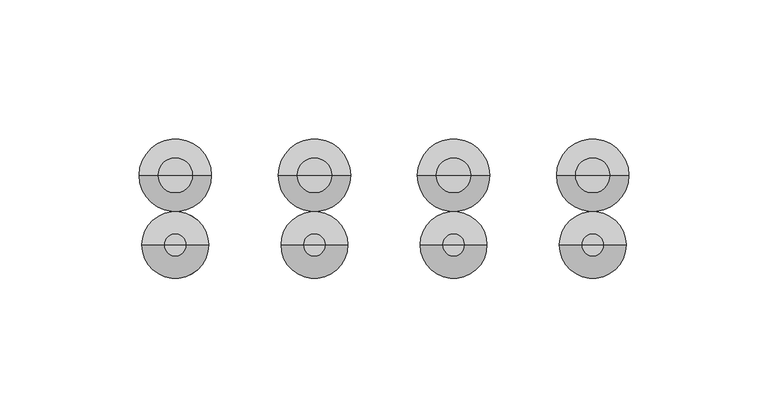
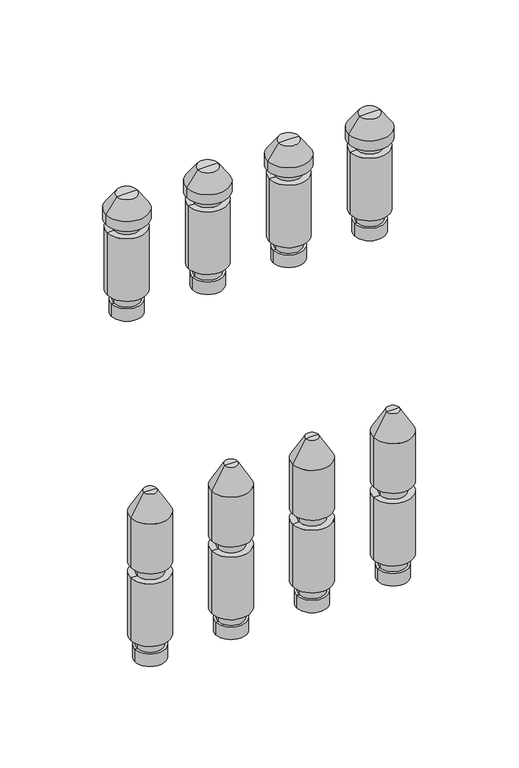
"""IFC4 building model written with IfcOpenShell, lengths in millimetres: valve geometry, PL CZ_Manifold_FT-VA : 12 circuits."""

from ifc_helpers import new_model, si_unit, frame, origin, place, context, project, spatial, polyline, circle_curve, source, transform, mapped, element, save
from ifc_brep_helpers import plane_surface, cylinder_surface, revolved_surface, advanced_brep


def valve_b043caab(model_context):
    return source(origin(), model_context, "Body", "AdvancedBrep", [
        advanced_brep(
        [(528.5, 0.0, -35.11267), (547.5, 0.0, -35.11267), (538.0, 0.0, -35.11267), (528.5, 0.0, -27.0369646), (547.5, 0.0, -27.0369646), (530.0, 0.0, -27.0369646), (546.0, 0.0, -27.0369646), (530.0, 0.0, -20.330253), (546.0, 0.0, -20.330253), (526.0, 0.0, -20.330253), (550.0, 0.0, -20.330253), (526.0, 0.0, 20.330253), (550.0, 0.0, 20.330253), (530.0, 0.0, 20.330253), (546.0, 0.0, 20.330253), (530.0, 0.0, 27.0474786), (546.0, 0.0, 27.0474786), (526.0, 0.0, 27.0474786), (550.0, 0.0, 27.0474786), (526.0, 0.0, 59.4084325), (550.0, 0.0, 59.4084325), (534.0, 0.0, 73.264839), (542.0, 0.0, 73.264839), (538.0, 0.0, 73.264839)],
        [
            (0, 1, circle_curve(frame((538.0, 0.0, -35.11267), z_axis=(0.0, 0.0, -1.0), x_axis=(1.0, 0.0, 0.0)), 9.5)),
            (1, 2),
            (2, 0),
            (1, 0, circle_curve(frame((538.0, 0.0, -35.11267), z_axis=(0.0, 0.0, -1.0), x_axis=(1.0, 0.0, 0.0)), 9.5)),
            (3, 4, circle_curve(frame((538.0, 0.0, -27.0369646), z_axis=(0.0, 0.0, -1.0), x_axis=(1.0, 0.0, 0.0)), 9.5)),
            (4, 1),
            (0, 3),
            (4, 3, circle_curve(frame((538.0, 0.0, -27.0369646), z_axis=(0.0, 0.0, -1.0), x_axis=(1.0, 0.0, 0.0)), 9.5)),
            (5, 6, circle_curve(frame((538.0, 0.0, -27.0369646), z_axis=(0.0, 0.0, -1.0), x_axis=(1.0, 0.0, 0.0)), 8.0)),
            (6, 4),
            (3, 5),
            (6, 5, circle_curve(frame((538.0, 0.0, -27.0369646), z_axis=(0.0, 0.0, -1.0), x_axis=(1.0, 0.0, 0.0)), 8.0)),
            (7, 8, circle_curve(frame((538.0, 0.0, -20.330253), z_axis=(0.0, 0.0, -1.0), x_axis=(1.0, 0.0, 0.0)), 8.0)),
            (8, 6),
            (5, 7),
            (8, 7, circle_curve(frame((538.0, 0.0, -20.330253), z_axis=(0.0, 0.0, -1.0), x_axis=(1.0, 0.0, 0.0)), 8.0)),
            (9, 10, circle_curve(frame((538.0, 0.0, -20.330253), z_axis=(0.0, 0.0, -1.0), x_axis=(1.0, 0.0, 0.0)), 12.0)),
            (10, 8),
            (7, 9),
            (10, 9, circle_curve(frame((538.0, 0.0, -20.330253), z_axis=(0.0, 0.0, -1.0), x_axis=(1.0, 0.0, 0.0)), 12.0)),
            (11, 12, circle_curve(frame((538.0, 0.0, 20.330253), z_axis=(0.0, 0.0, -1.0), x_axis=(1.0, 0.0, 0.0)), 12.0)),
            (12, 10),
            (9, 11),
            (12, 11, circle_curve(frame((538.0, 0.0, 20.330253), z_axis=(0.0, 0.0, -1.0), x_axis=(1.0, 0.0, 0.0)), 12.0)),
            (13, 14, circle_curve(frame((538.0, 0.0, 20.330253), z_axis=(0.0, 0.0, -1.0), x_axis=(1.0, 0.0, 0.0)), 8.0)),
            (14, 12),
            (11, 13),
            (14, 13, circle_curve(frame((538.0, 0.0, 20.330253), z_axis=(0.0, 0.0, -1.0), x_axis=(1.0, 0.0, 0.0)), 8.0)),
            (15, 16, circle_curve(frame((538.0, 0.0, 27.0474786), z_axis=(0.0, 0.0, -1.0), x_axis=(1.0, 0.0, 0.0)), 8.0)),
            (16, 14),
            (13, 15),
            (16, 15, circle_curve(frame((538.0, 0.0, 27.0474786), z_axis=(0.0, 0.0, -1.0), x_axis=(1.0, 0.0, 0.0)), 8.0)),
            (17, 18, circle_curve(frame((538.0, 0.0, 27.0474786), z_axis=(0.0, 0.0, -1.0), x_axis=(1.0, 0.0, 0.0)), 12.0)),
            (18, 16),
            (15, 17),
            (18, 17, circle_curve(frame((538.0, 0.0, 27.0474786), z_axis=(0.0, 0.0, -1.0), x_axis=(1.0, 0.0, 0.0)), 12.0)),
            (19, 20, circle_curve(frame((538.0, 0.0, 59.4084325), z_axis=(0.0, 0.0, -1.0), x_axis=(1.0, 0.0, 0.0)), 12.0)),
            (20, 18),
            (17, 19),
            (20, 19, circle_curve(frame((538.0, 0.0, 59.4084325), z_axis=(0.0, 0.0, -1.0), x_axis=(1.0, 0.0, 0.0)), 12.0)),
            (21, 22, circle_curve(frame((538.0, 0.0, 73.264839), z_axis=(0.0, 0.0, -1.0), x_axis=(1.0, 0.0, 0.0)), 4.0)),
            (22, 20),
            (19, 21),
            (22, 21, circle_curve(frame((538.0, 0.0, 73.264839), z_axis=(0.0, 0.0, -1.0), x_axis=(1.0, 0.0, 0.0)), 4.0)),
            (23, 22),
            (21, 23),
        ],
        [
            plane_surface(frame((538.0, 0.0, -35.11267), z_axis=(0.0, 0.0, -1.0), x_axis=(1.0, 0.0, 0.0))),
            cylinder_surface(frame((538.0, 0.0, 58.264839), z_axis=(0.0, 0.0, 1.0), x_axis=(1.0, 0.0, 0.0)), 9.5),
            plane_surface(frame((538.0, 0.0, -27.0369646), z_axis=(0.0, 0.0, 1.0), x_axis=(1.0, 0.0, 0.0))),
            cylinder_surface(frame((538.0, 0.0, 58.264839), z_axis=(0.0, 0.0, 1.0), x_axis=(1.0, 0.0, 0.0)), 8.0),
            plane_surface(frame((538.0, 0.0, -20.330253), z_axis=(0.0, 0.0, -1.0), x_axis=(1.0, 0.0, 0.0))),
            cylinder_surface(frame((538.0, 0.0, 58.264839), z_axis=(0.0, 0.0, 1.0), x_axis=(1.0, 0.0, 0.0)), 12.0),
            plane_surface(frame((538.0, 0.0, 20.330253), z_axis=(0.0, 0.0, 1.0), x_axis=(1.0, 0.0, 0.0))),
            plane_surface(frame((538.0, 0.0, 27.0474786), z_axis=(0.0, 0.0, -1.0), x_axis=(1.0, 0.0, 0.0))),
            revolved_surface(polyline([(550.0, 0.0, 59.4084325), (542.0, 0.0, 73.264839)]), (538.0, 0.0, 58.264839), (0.0, 0.0, 1.0)),
            plane_surface(frame((538.0, 0.0, 73.264839), z_axis=(0.0, 0.0, 1.0), x_axis=(1.0, 0.0, 0.0))),
        ],
        [
            (0, [[1, 2, 3]]),
            (0, [[4, -3, -2]]),
            (1, [[5, 6, -1, 7]]),
            (1, [[8, -7, -4, -6]]),
            (2, [[9, 10, -5, 11]]),
            (2, [[12, -11, -8, -10]]),
            (3, [[13, 14, -9, 15]]),
            (3, [[16, -15, -12, -14]]),
            (4, [[17, 18, -13, 19]]),
            (4, [[20, -19, -16, -18]]),
            (5, [[21, 22, -17, 23]]),
            (5, [[24, -23, -20, -22]]),
            (6, [[25, 26, -21, 27]]),
            (6, [[28, -27, -24, -26]]),
            (3, [[29, 30, -25, 31]]),
            (3, [[32, -31, -28, -30]]),
            (7, [[33, 34, -29, 35]]),
            (7, [[36, -35, -32, -34]]),
            (5, [[37, 38, -33, 39]]),
            (5, [[40, -39, -36, -38]]),
            (8, [[41, 42, -37, 43]]),
            (8, [[44, -43, -40, -42]]),
            (9, [[45, -41, 46]]),
            (9, [[-46, -44, -45]]),
        ],
    ),
        advanced_brep(
        [(478.5, 0.0, -35.11267), (497.5, 0.0, -35.11267), (488.0, 0.0, -35.11267), (478.5, 0.0, -27.0369646), (497.5, 0.0, -27.0369646), (480.0, 0.0, -27.0369646), (496.0, 0.0, -27.0369646), (480.0, 0.0, -20.330253), (496.0, 0.0, -20.330253), (476.0, 0.0, -20.330253), (500.0, 0.0, -20.330253), (476.0, 0.0, 20.330253), (500.0, 0.0, 20.330253), (480.0, 0.0, 20.330253), (496.0, 0.0, 20.330253), (480.0, 0.0, 27.0474786), (496.0, 0.0, 27.0474786), (476.0, 0.0, 27.0474786), (500.0, 0.0, 27.0474786), (476.0, 0.0, 59.4084325), (500.0, 0.0, 59.4084325), (484.0, 0.0, 73.264839), (492.0, 0.0, 73.264839), (488.0, 0.0, 73.264839)],
        [
            (0, 1, circle_curve(frame((488.0, 0.0, -35.11267), z_axis=(0.0, 0.0, -1.0), x_axis=(1.0, 0.0, 0.0)), 9.5)),
            (1, 2),
            (2, 0),
            (1, 0, circle_curve(frame((488.0, 0.0, -35.11267), z_axis=(0.0, 0.0, -1.0), x_axis=(1.0, 0.0, 0.0)), 9.5)),
            (3, 4, circle_curve(frame((488.0, 0.0, -27.0369646), z_axis=(0.0, 0.0, -1.0), x_axis=(1.0, 0.0, 0.0)), 9.5)),
            (4, 1),
            (0, 3),
            (4, 3, circle_curve(frame((488.0, 0.0, -27.0369646), z_axis=(0.0, 0.0, -1.0), x_axis=(1.0, 0.0, 0.0)), 9.5)),
            (5, 6, circle_curve(frame((488.0, 0.0, -27.0369646), z_axis=(0.0, 0.0, -1.0), x_axis=(1.0, 0.0, 0.0)), 8.0)),
            (6, 4),
            (3, 5),
            (6, 5, circle_curve(frame((488.0, 0.0, -27.0369646), z_axis=(0.0, 0.0, -1.0), x_axis=(1.0, 0.0, 0.0)), 8.0)),
            (7, 8, circle_curve(frame((488.0, 0.0, -20.330253), z_axis=(0.0, 0.0, -1.0), x_axis=(1.0, 0.0, 0.0)), 8.0)),
            (8, 6),
            (5, 7),
            (8, 7, circle_curve(frame((488.0, 0.0, -20.330253), z_axis=(0.0, 0.0, -1.0), x_axis=(1.0, 0.0, 0.0)), 8.0)),
            (9, 10, circle_curve(frame((488.0, 0.0, -20.330253), z_axis=(0.0, 0.0, -1.0), x_axis=(1.0, 0.0, 0.0)), 12.0)),
            (10, 8),
            (7, 9),
            (10, 9, circle_curve(frame((488.0, 0.0, -20.330253), z_axis=(0.0, 0.0, -1.0), x_axis=(1.0, 0.0, 0.0)), 12.0)),
            (11, 12, circle_curve(frame((488.0, 0.0, 20.330253), z_axis=(0.0, 0.0, -1.0), x_axis=(1.0, 0.0, 0.0)), 12.0)),
            (12, 10),
            (9, 11),
            (12, 11, circle_curve(frame((488.0, 0.0, 20.330253), z_axis=(0.0, 0.0, -1.0), x_axis=(1.0, 0.0, 0.0)), 12.0)),
            (13, 14, circle_curve(frame((488.0, 0.0, 20.330253), z_axis=(0.0, 0.0, -1.0), x_axis=(1.0, 0.0, 0.0)), 8.0)),
            (14, 12),
            (11, 13),
            (14, 13, circle_curve(frame((488.0, 0.0, 20.330253), z_axis=(0.0, 0.0, -1.0), x_axis=(1.0, 0.0, 0.0)), 8.0)),
            (15, 16, circle_curve(frame((488.0, 0.0, 27.0474786), z_axis=(0.0, 0.0, -1.0), x_axis=(1.0, 0.0, 0.0)), 8.0)),
            (16, 14),
            (13, 15),
            (16, 15, circle_curve(frame((488.0, 0.0, 27.0474786), z_axis=(0.0, 0.0, -1.0), x_axis=(1.0, 0.0, 0.0)), 8.0)),
            (17, 18, circle_curve(frame((488.0, 0.0, 27.0474786), z_axis=(0.0, 0.0, -1.0), x_axis=(1.0, 0.0, 0.0)), 12.0)),
            (18, 16),
            (15, 17),
            (18, 17, circle_curve(frame((488.0, 0.0, 27.0474786), z_axis=(0.0, 0.0, -1.0), x_axis=(1.0, 0.0, 0.0)), 12.0)),
            (19, 20, circle_curve(frame((488.0, 0.0, 59.4084325), z_axis=(0.0, 0.0, -1.0), x_axis=(1.0, 0.0, 0.0)), 12.0)),
            (20, 18),
            (17, 19),
            (20, 19, circle_curve(frame((488.0, 0.0, 59.4084325), z_axis=(0.0, 0.0, -1.0), x_axis=(1.0, 0.0, 0.0)), 12.0)),
            (21, 22, circle_curve(frame((488.0, 0.0, 73.264839), z_axis=(0.0, 0.0, -1.0), x_axis=(1.0, 0.0, 0.0)), 4.0)),
            (22, 20),
            (19, 21),
            (22, 21, circle_curve(frame((488.0, 0.0, 73.264839), z_axis=(0.0, 0.0, -1.0), x_axis=(1.0, 0.0, 0.0)), 4.0)),
            (23, 22),
            (21, 23),
        ],
        [
            plane_surface(frame((488.0, 0.0, -35.11267), z_axis=(0.0, 0.0, -1.0), x_axis=(1.0, 0.0, 0.0))),
            cylinder_surface(frame((488.0, 0.0, 58.264839), z_axis=(0.0, 0.0, 1.0), x_axis=(1.0, 0.0, 0.0)), 9.5),
            plane_surface(frame((488.0, 0.0, -27.0369646), z_axis=(0.0, 0.0, 1.0), x_axis=(1.0, 0.0, 0.0))),
            cylinder_surface(frame((488.0, 0.0, 58.264839), z_axis=(0.0, 0.0, 1.0), x_axis=(1.0, 0.0, 0.0)), 8.0),
            plane_surface(frame((488.0, 0.0, -20.330253), z_axis=(0.0, 0.0, -1.0), x_axis=(1.0, 0.0, 0.0))),
            cylinder_surface(frame((488.0, 0.0, 58.264839), z_axis=(0.0, 0.0, 1.0), x_axis=(1.0, 0.0, 0.0)), 12.0),
            plane_surface(frame((488.0, 0.0, 20.330253), z_axis=(0.0, 0.0, 1.0), x_axis=(1.0, 0.0, 0.0))),
            plane_surface(frame((488.0, 0.0, 27.0474786), z_axis=(0.0, 0.0, -1.0), x_axis=(1.0, 0.0, 0.0))),
            revolved_surface(polyline([(500.0, 0.0, 59.4084325), (492.0, 0.0, 73.264839)]), (488.0, 0.0, 58.264839), (0.0, 0.0, 1.0)),
            plane_surface(frame((488.0, 0.0, 73.264839), z_axis=(0.0, 0.0, 1.0), x_axis=(1.0, 0.0, 0.0))),
        ],
        [
            (0, [[1, 2, 3]]),
            (0, [[4, -3, -2]]),
            (1, [[5, 6, -1, 7]]),
            (1, [[8, -7, -4, -6]]),
            (2, [[9, 10, -5, 11]]),
            (2, [[12, -11, -8, -10]]),
            (3, [[13, 14, -9, 15]]),
            (3, [[16, -15, -12, -14]]),
            (4, [[17, 18, -13, 19]]),
            (4, [[20, -19, -16, -18]]),
            (5, [[21, 22, -17, 23]]),
            (5, [[24, -23, -20, -22]]),
            (6, [[25, 26, -21, 27]]),
            (6, [[28, -27, -24, -26]]),
            (3, [[29, 30, -25, 31]]),
            (3, [[32, -31, -28, -30]]),
            (7, [[33, 34, -29, 35]]),
            (7, [[36, -35, -32, -34]]),
            (5, [[37, 38, -33, 39]]),
            (5, [[40, -39, -36, -38]]),
            (8, [[41, 42, -37, 43]]),
            (8, [[44, -43, -40, -42]]),
            (9, [[45, -41, 46]]),
            (9, [[-46, -44, -45]]),
        ],
    ),
        advanced_brep(
        [(528.5, 25.0, 174.88733), (547.5, 25.0, 174.88733), (538.0, 25.0, 174.88733), (528.5, 25.0, 182.9630354), (547.5, 25.0, 182.9630354), (530.0, 25.0, 182.9630354), (546.0, 25.0, 182.9630354), (530.0, 25.0, 189.669747), (546.0, 25.0, 189.669747), (526.0, 25.0, 189.669747), (550.0, 25.0, 189.669747), (526.0, 25.0, 230.330253), (550.0, 25.0, 230.330253), (530.0, 25.0, 230.330253), (546.0, 25.0, 230.330253), (530.0, 25.0, 236.0474786), (546.0, 25.0, 236.0474786), (525.0, 25.0, 236.0474786), (551.0, 25.0, 236.0474786), (525.0, 25.0, 242.337955), (551.0, 25.0, 242.337955), (531.6551779, 25.0, 251.842534), (544.3448221, 25.0, 251.842534), (538.0, 25.0, 251.842534)],
        [
            (0, 1, circle_curve(frame((538.0, 25.0, 174.88733), z_axis=(0.0, 0.0, -1.0), x_axis=(1.0, 0.0, 0.0)), 9.5)),
            (1, 2),
            (2, 0),
            (1, 0, circle_curve(frame((538.0, 25.0, 174.88733), z_axis=(0.0, 0.0, -1.0), x_axis=(1.0, 0.0, 0.0)), 9.5)),
            (3, 4, circle_curve(frame((538.0, 25.0, 182.9630354), z_axis=(0.0, 0.0, -1.0), x_axis=(1.0, 0.0, 0.0)), 9.5)),
            (4, 1),
            (0, 3),
            (4, 3, circle_curve(frame((538.0, 25.0, 182.9630354), z_axis=(0.0, 0.0, -1.0), x_axis=(1.0, 0.0, 0.0)), 9.5)),
            (5, 6, circle_curve(frame((538.0, 25.0, 182.9630354), z_axis=(0.0, 0.0, -1.0), x_axis=(1.0, 0.0, 0.0)), 8.0)),
            (6, 4),
            (3, 5),
            (6, 5, circle_curve(frame((538.0, 25.0, 182.9630354), z_axis=(0.0, 0.0, -1.0), x_axis=(1.0, 0.0, 0.0)), 8.0)),
            (7, 8, circle_curve(frame((538.0, 25.0, 189.669747), z_axis=(0.0, 0.0, -1.0), x_axis=(1.0, 0.0, 0.0)), 8.0)),
            (8, 6),
            (5, 7),
            (8, 7, circle_curve(frame((538.0, 25.0, 189.669747), z_axis=(0.0, 0.0, -1.0), x_axis=(1.0, 0.0, 0.0)), 8.0)),
            (9, 10, circle_curve(frame((538.0, 25.0, 189.669747), z_axis=(0.0, 0.0, -1.0), x_axis=(1.0, 0.0, 0.0)), 12.0)),
            (10, 8),
            (7, 9),
            (10, 9, circle_curve(frame((538.0, 25.0, 189.669747), z_axis=(0.0, 0.0, -1.0), x_axis=(1.0, 0.0, 0.0)), 12.0)),
            (11, 12, circle_curve(frame((538.0, 25.0, 230.330253), z_axis=(0.0, 0.0, -1.0), x_axis=(1.0, 0.0, 0.0)), 12.0)),
            (12, 10),
            (9, 11),
            (12, 11, circle_curve(frame((538.0, 25.0, 230.330253), z_axis=(0.0, 0.0, -1.0), x_axis=(1.0, 0.0, 0.0)), 12.0)),
            (13, 14, circle_curve(frame((538.0, 25.0, 230.330253), z_axis=(0.0, 0.0, -1.0), x_axis=(1.0, 0.0, 0.0)), 8.0)),
            (14, 12),
            (11, 13),
            (14, 13, circle_curve(frame((538.0, 25.0, 230.330253), z_axis=(0.0, 0.0, -1.0), x_axis=(1.0, 0.0, 0.0)), 8.0)),
            (15, 16, circle_curve(frame((538.0, 25.0, 236.0474786), z_axis=(0.0, 0.0, -1.0), x_axis=(1.0, 0.0, 0.0)), 8.0)),
            (16, 14),
            (13, 15),
            (16, 15, circle_curve(frame((538.0, 25.0, 236.0474786), z_axis=(0.0, 0.0, -1.0), x_axis=(1.0, 0.0, 0.0)), 8.0)),
            (17, 18, circle_curve(frame((538.0, 25.0, 236.0474786), z_axis=(0.0, 0.0, -1.0), x_axis=(1.0, 0.0, 0.0)), 13.0)),
            (18, 16),
            (15, 17),
            (18, 17, circle_curve(frame((538.0, 25.0, 236.0474786), z_axis=(0.0, 0.0, -1.0), x_axis=(1.0, 0.0, 0.0)), 13.0)),
            (19, 20, circle_curve(frame((538.0, 25.0, 242.337955), z_axis=(0.0, 0.0, -1.0), x_axis=(1.0, 0.0, 0.0)), 13.0)),
            (20, 18),
            (17, 19),
            (20, 19, circle_curve(frame((538.0, 25.0, 242.337955), z_axis=(0.0, 0.0, -1.0), x_axis=(1.0, 0.0, 0.0)), 13.0)),
            (21, 22, circle_curve(frame((538.0, 25.0, 251.842534), z_axis=(0.0, 0.0, -1.0), x_axis=(1.0, 0.0, 0.0)), 6.3448221)),
            (22, 20),
            (19, 21),
            (22, 21, circle_curve(frame((538.0, 25.0, 251.842534), z_axis=(0.0, 0.0, -1.0), x_axis=(1.0, 0.0, 0.0)), 6.3448221)),
            (23, 22),
            (21, 23),
        ],
        [
            plane_surface(frame((538.0, 25.0, 174.88733), z_axis=(0.0, 0.0, -1.0), x_axis=(1.0, 0.0, 0.0))),
            cylinder_surface(frame((538.0, 25.0, 247.7026565), z_axis=(0.0, 0.0, 1.0), x_axis=(1.0, 0.0, 0.0)), 9.5),
            plane_surface(frame((538.0, 25.0, 182.9630354), z_axis=(0.0, 0.0, 1.0), x_axis=(1.0, 0.0, 0.0))),
            cylinder_surface(frame((538.0, 25.0, 247.7026565), z_axis=(0.0, 0.0, 1.0), x_axis=(1.0, 0.0, 0.0)), 8.0),
            plane_surface(frame((538.0, 25.0, 189.669747), z_axis=(0.0, 0.0, -1.0), x_axis=(1.0, 0.0, 0.0))),
            cylinder_surface(frame((538.0, 25.0, 247.7026565), z_axis=(0.0, 0.0, 1.0), x_axis=(1.0, 0.0, 0.0)), 12.0),
            plane_surface(frame((538.0, 25.0, 230.330253), z_axis=(0.0, 0.0, 1.0), x_axis=(1.0, 0.0, 0.0))),
            plane_surface(frame((538.0, 25.0, 236.0474786), z_axis=(0.0, 0.0, -1.0), x_axis=(1.0, 0.0, 0.0))),
            cylinder_surface(frame((538.0, 25.0, 247.7026565), z_axis=(0.0, 0.0, 1.0), x_axis=(1.0, 0.0, 0.0)), 13.0),
            revolved_surface(polyline([(551.0, 25.0, 242.337955), (544.3448221, 25.0, 251.842534)]), (538.0, 25.0, 247.7026565), (0.0, 0.0, 1.0)),
            plane_surface(frame((538.0, 25.0, 251.842534), z_axis=(0.0, 0.0, 1.0), x_axis=(1.0, 0.0, 0.0))),
        ],
        [
            (0, [[1, 2, 3]]),
            (0, [[4, -3, -2]]),
            (1, [[5, 6, -1, 7]]),
            (1, [[8, -7, -4, -6]]),
            (2, [[9, 10, -5, 11]]),
            (2, [[12, -11, -8, -10]]),
            (3, [[13, 14, -9, 15]]),
            (3, [[16, -15, -12, -14]]),
            (4, [[17, 18, -13, 19]]),
            (4, [[20, -19, -16, -18]]),
            (5, [[21, 22, -17, 23]]),
            (5, [[24, -23, -20, -22]]),
            (6, [[25, 26, -21, 27]]),
            (6, [[28, -27, -24, -26]]),
            (3, [[29, 30, -25, 31]]),
            (3, [[32, -31, -28, -30]]),
            (7, [[33, 34, -29, 35]]),
            (7, [[36, -35, -32, -34]]),
            (8, [[37, 38, -33, 39]]),
            (8, [[40, -39, -36, -38]]),
            (9, [[41, 42, -37, 43]]),
            (9, [[44, -43, -40, -42]]),
            (10, [[45, -41, 46]]),
            (10, [[-46, -44, -45]]),
        ],
    ),
        advanced_brep(
        [(478.5, 25.0, 174.88733), (497.5, 25.0, 174.88733), (488.0, 25.0, 174.88733), (478.5, 25.0, 182.9630354), (497.5, 25.0, 182.9630354), (480.0, 25.0, 182.9630354), (496.0, 25.0, 182.9630354), (480.0, 25.0, 189.669747), (496.0, 25.0, 189.669747), (476.0, 25.0, 189.669747), (500.0, 25.0, 189.669747), (476.0, 25.0, 230.330253), (500.0, 25.0, 230.330253), (480.0, 25.0, 230.330253), (496.0, 25.0, 230.330253), (480.0, 25.0, 236.0474786), (496.0, 25.0, 236.0474786), (475.0, 25.0, 236.0474786), (501.0, 25.0, 236.0474786), (475.0, 25.0, 242.337955), (501.0, 25.0, 242.337955), (481.6551779, 25.0, 251.842534), (494.3448221, 25.0, 251.842534), (488.0, 25.0, 251.842534)],
        [
            (0, 1, circle_curve(frame((488.0, 25.0, 174.88733), z_axis=(0.0, 0.0, -1.0), x_axis=(1.0, 0.0, 0.0)), 9.5)),
            (1, 2),
            (2, 0),
            (1, 0, circle_curve(frame((488.0, 25.0, 174.88733), z_axis=(0.0, 0.0, -1.0), x_axis=(1.0, 0.0, 0.0)), 9.5)),
            (3, 4, circle_curve(frame((488.0, 25.0, 182.9630354), z_axis=(0.0, 0.0, -1.0), x_axis=(1.0, 0.0, 0.0)), 9.5)),
            (4, 1),
            (0, 3),
            (4, 3, circle_curve(frame((488.0, 25.0, 182.9630354), z_axis=(0.0, 0.0, -1.0), x_axis=(1.0, 0.0, 0.0)), 9.5)),
            (5, 6, circle_curve(frame((488.0, 25.0, 182.9630354), z_axis=(0.0, 0.0, -1.0), x_axis=(1.0, 0.0, 0.0)), 8.0)),
            (6, 4),
            (3, 5),
            (6, 5, circle_curve(frame((488.0, 25.0, 182.9630354), z_axis=(0.0, 0.0, -1.0), x_axis=(1.0, 0.0, 0.0)), 8.0)),
            (7, 8, circle_curve(frame((488.0, 25.0, 189.669747), z_axis=(0.0, 0.0, -1.0), x_axis=(1.0, 0.0, 0.0)), 8.0)),
            (8, 6),
            (5, 7),
            (8, 7, circle_curve(frame((488.0, 25.0, 189.669747), z_axis=(0.0, 0.0, -1.0), x_axis=(1.0, 0.0, 0.0)), 8.0)),
            (9, 10, circle_curve(frame((488.0, 25.0, 189.669747), z_axis=(0.0, 0.0, -1.0), x_axis=(1.0, 0.0, 0.0)), 12.0)),
            (10, 8),
            (7, 9),
            (10, 9, circle_curve(frame((488.0, 25.0, 189.669747), z_axis=(0.0, 0.0, -1.0), x_axis=(1.0, 0.0, 0.0)), 12.0)),
            (11, 12, circle_curve(frame((488.0, 25.0, 230.330253), z_axis=(0.0, 0.0, -1.0), x_axis=(1.0, 0.0, 0.0)), 12.0)),
            (12, 10),
            (9, 11),
            (12, 11, circle_curve(frame((488.0, 25.0, 230.330253), z_axis=(0.0, 0.0, -1.0), x_axis=(1.0, 0.0, 0.0)), 12.0)),
            (13, 14, circle_curve(frame((488.0, 25.0, 230.330253), z_axis=(0.0, 0.0, -1.0), x_axis=(1.0, 0.0, 0.0)), 8.0)),
            (14, 12),
            (11, 13),
            (14, 13, circle_curve(frame((488.0, 25.0, 230.330253), z_axis=(0.0, 0.0, -1.0), x_axis=(1.0, 0.0, 0.0)), 8.0)),
            (15, 16, circle_curve(frame((488.0, 25.0, 236.0474786), z_axis=(0.0, 0.0, -1.0), x_axis=(1.0, 0.0, 0.0)), 8.0)),
            (16, 14),
            (13, 15),
            (16, 15, circle_curve(frame((488.0, 25.0, 236.0474786), z_axis=(0.0, 0.0, -1.0), x_axis=(1.0, 0.0, 0.0)), 8.0)),
            (17, 18, circle_curve(frame((488.0, 25.0, 236.0474786), z_axis=(0.0, 0.0, -1.0), x_axis=(1.0, 0.0, 0.0)), 13.0)),
            (18, 16),
            (15, 17),
            (18, 17, circle_curve(frame((488.0, 25.0, 236.0474786), z_axis=(0.0, 0.0, -1.0), x_axis=(1.0, 0.0, 0.0)), 13.0)),
            (19, 20, circle_curve(frame((488.0, 25.0, 242.337955), z_axis=(0.0, 0.0, -1.0), x_axis=(1.0, 0.0, 0.0)), 13.0)),
            (20, 18),
            (17, 19),
            (20, 19, circle_curve(frame((488.0, 25.0, 242.337955), z_axis=(0.0, 0.0, -1.0), x_axis=(1.0, 0.0, 0.0)), 13.0)),
            (21, 22, circle_curve(frame((488.0, 25.0, 251.842534), z_axis=(0.0, 0.0, -1.0), x_axis=(1.0, 0.0, 0.0)), 6.3448221)),
            (22, 20),
            (19, 21),
            (22, 21, circle_curve(frame((488.0, 25.0, 251.842534), z_axis=(0.0, 0.0, -1.0), x_axis=(1.0, 0.0, 0.0)), 6.3448221)),
            (23, 22),
            (21, 23),
        ],
        [
            plane_surface(frame((488.0, 25.0, 174.88733), z_axis=(0.0, 0.0, -1.0), x_axis=(1.0, 0.0, 0.0))),
            cylinder_surface(frame((488.0, 25.0, 247.7026565), z_axis=(0.0, 0.0, 1.0), x_axis=(1.0, 0.0, 0.0)), 9.5),
            plane_surface(frame((488.0, 25.0, 182.9630354), z_axis=(0.0, 0.0, 1.0), x_axis=(1.0, 0.0, 0.0))),
            cylinder_surface(frame((488.0, 25.0, 247.7026565), z_axis=(0.0, 0.0, 1.0), x_axis=(1.0, 0.0, 0.0)), 8.0),
            plane_surface(frame((488.0, 25.0, 189.669747), z_axis=(0.0, 0.0, -1.0), x_axis=(1.0, 0.0, 0.0))),
            cylinder_surface(frame((488.0, 25.0, 247.7026565), z_axis=(0.0, 0.0, 1.0), x_axis=(1.0, 0.0, 0.0)), 12.0),
            plane_surface(frame((488.0, 25.0, 230.330253), z_axis=(0.0, 0.0, 1.0), x_axis=(1.0, 0.0, 0.0))),
            plane_surface(frame((488.0, 25.0, 236.0474786), z_axis=(0.0, 0.0, -1.0), x_axis=(1.0, 0.0, 0.0))),
            cylinder_surface(frame((488.0, 25.0, 247.7026565), z_axis=(0.0, 0.0, 1.0), x_axis=(1.0, 0.0, 0.0)), 13.0),
            revolved_surface(polyline([(501.0, 25.0, 242.337955), (494.3448221, 25.0, 251.842534)]), (488.0, 25.0, 247.7026565), (0.0, 0.0, 1.0)),
            plane_surface(frame((488.0, 25.0, 251.842534), z_axis=(0.0, 0.0, 1.0), x_axis=(1.0, 0.0, 0.0))),
        ],
        [
            (0, [[1, 2, 3]]),
            (0, [[4, -3, -2]]),
            (1, [[5, 6, -1, 7]]),
            (1, [[8, -7, -4, -6]]),
            (2, [[9, 10, -5, 11]]),
            (2, [[12, -11, -8, -10]]),
            (3, [[13, 14, -9, 15]]),
            (3, [[16, -15, -12, -14]]),
            (4, [[17, 18, -13, 19]]),
            (4, [[20, -19, -16, -18]]),
            (5, [[21, 22, -17, 23]]),
            (5, [[24, -23, -20, -22]]),
            (6, [[25, 26, -21, 27]]),
            (6, [[28, -27, -24, -26]]),
            (3, [[29, 30, -25, 31]]),
            (3, [[32, -31, -28, -30]]),
            (7, [[33, 34, -29, 35]]),
            (7, [[36, -35, -32, -34]]),
            (8, [[37, 38, -33, 39]]),
            (8, [[40, -39, -36, -38]]),
            (9, [[41, 42, -37, 43]]),
            (9, [[44, -43, -40, -42]]),
            (10, [[45, -41, 46]]),
            (10, [[-46, -44, -45]]),
        ],
    ),
        advanced_brep(
        [(428.5, 0.0, -35.11267), (447.5, 0.0, -35.11267), (438.0, 0.0, -35.11267), (428.5, 0.0, -27.0369646), (447.5, 0.0, -27.0369646), (430.0, 0.0, -27.0369646), (446.0, 0.0, -27.0369646), (430.0, 0.0, -20.330253), (446.0, 0.0, -20.330253), (426.0, 0.0, -20.330253), (450.0, 0.0, -20.330253), (426.0, 0.0, 20.330253), (450.0, 0.0, 20.330253), (430.0, 0.0, 20.330253), (446.0, 0.0, 20.330253), (430.0, 0.0, 27.0474786), (446.0, 0.0, 27.0474786), (426.0, 0.0, 27.0474786), (450.0, 0.0, 27.0474786), (426.0, 0.0, 59.4084325), (450.0, 0.0, 59.4084325), (434.0, 0.0, 73.264839), (442.0, 0.0, 73.264839), (438.0, 0.0, 73.264839)],
        [
            (0, 1, circle_curve(frame((438.0, 0.0, -35.11267), z_axis=(0.0, 0.0, -1.0), x_axis=(1.0, 0.0, 0.0)), 9.5)),
            (1, 2),
            (2, 0),
            (1, 0, circle_curve(frame((438.0, 0.0, -35.11267), z_axis=(0.0, 0.0, -1.0), x_axis=(1.0, 0.0, 0.0)), 9.5)),
            (3, 4, circle_curve(frame((438.0, 0.0, -27.0369646), z_axis=(0.0, 0.0, -1.0), x_axis=(1.0, 0.0, 0.0)), 9.5)),
            (4, 1),
            (0, 3),
            (4, 3, circle_curve(frame((438.0, 0.0, -27.0369646), z_axis=(0.0, 0.0, -1.0), x_axis=(1.0, 0.0, 0.0)), 9.5)),
            (5, 6, circle_curve(frame((438.0, 0.0, -27.0369646), z_axis=(0.0, 0.0, -1.0), x_axis=(1.0, 0.0, 0.0)), 8.0)),
            (6, 4),
            (3, 5),
            (6, 5, circle_curve(frame((438.0, 0.0, -27.0369646), z_axis=(0.0, 0.0, -1.0), x_axis=(1.0, 0.0, 0.0)), 8.0)),
            (7, 8, circle_curve(frame((438.0, 0.0, -20.330253), z_axis=(0.0, 0.0, -1.0), x_axis=(1.0, 0.0, 0.0)), 8.0)),
            (8, 6),
            (5, 7),
            (8, 7, circle_curve(frame((438.0, 0.0, -20.330253), z_axis=(0.0, 0.0, -1.0), x_axis=(1.0, 0.0, 0.0)), 8.0)),
            (9, 10, circle_curve(frame((438.0, 0.0, -20.330253), z_axis=(0.0, 0.0, -1.0), x_axis=(1.0, 0.0, 0.0)), 12.0)),
            (10, 8),
            (7, 9),
            (10, 9, circle_curve(frame((438.0, 0.0, -20.330253), z_axis=(0.0, 0.0, -1.0), x_axis=(1.0, 0.0, 0.0)), 12.0)),
            (11, 12, circle_curve(frame((438.0, 0.0, 20.330253), z_axis=(0.0, 0.0, -1.0), x_axis=(1.0, 0.0, 0.0)), 12.0)),
            (12, 10),
            (9, 11),
            (12, 11, circle_curve(frame((438.0, 0.0, 20.330253), z_axis=(0.0, 0.0, -1.0), x_axis=(1.0, 0.0, 0.0)), 12.0)),
            (13, 14, circle_curve(frame((438.0, 0.0, 20.330253), z_axis=(0.0, 0.0, -1.0), x_axis=(1.0, 0.0, 0.0)), 8.0)),
            (14, 12),
            (11, 13),
            (14, 13, circle_curve(frame((438.0, 0.0, 20.330253), z_axis=(0.0, 0.0, -1.0), x_axis=(1.0, 0.0, 0.0)), 8.0)),
            (15, 16, circle_curve(frame((438.0, 0.0, 27.0474786), z_axis=(0.0, 0.0, -1.0), x_axis=(1.0, 0.0, 0.0)), 8.0)),
            (16, 14),
            (13, 15),
            (16, 15, circle_curve(frame((438.0, 0.0, 27.0474786), z_axis=(0.0, 0.0, -1.0), x_axis=(1.0, 0.0, 0.0)), 8.0)),
            (17, 18, circle_curve(frame((438.0, 0.0, 27.0474786), z_axis=(0.0, 0.0, -1.0), x_axis=(1.0, 0.0, 0.0)), 12.0)),
            (18, 16),
            (15, 17),
            (18, 17, circle_curve(frame((438.0, 0.0, 27.0474786), z_axis=(0.0, 0.0, -1.0), x_axis=(1.0, 0.0, 0.0)), 12.0)),
            (19, 20, circle_curve(frame((438.0, 0.0, 59.4084325), z_axis=(0.0, 0.0, -1.0), x_axis=(1.0, 0.0, 0.0)), 12.0)),
            (20, 18),
            (17, 19),
            (20, 19, circle_curve(frame((438.0, 0.0, 59.4084325), z_axis=(0.0, 0.0, -1.0), x_axis=(1.0, 0.0, 0.0)), 12.0)),
            (21, 22, circle_curve(frame((438.0, 0.0, 73.264839), z_axis=(0.0, 0.0, -1.0), x_axis=(1.0, 0.0, 0.0)), 4.0)),
            (22, 20),
            (19, 21),
            (22, 21, circle_curve(frame((438.0, 0.0, 73.264839), z_axis=(0.0, 0.0, -1.0), x_axis=(1.0, 0.0, 0.0)), 4.0)),
            (23, 22),
            (21, 23),
        ],
        [
            plane_surface(frame((438.0, 0.0, -35.11267), z_axis=(0.0, 0.0, -1.0), x_axis=(1.0, 0.0, 0.0))),
            cylinder_surface(frame((438.0, 0.0, 58.264839), z_axis=(0.0, 0.0, 1.0), x_axis=(1.0, 0.0, 0.0)), 9.5),
            plane_surface(frame((438.0, 0.0, -27.0369646), z_axis=(0.0, 0.0, 1.0), x_axis=(1.0, 0.0, 0.0))),
            cylinder_surface(frame((438.0, 0.0, 58.264839), z_axis=(0.0, 0.0, 1.0), x_axis=(1.0, 0.0, 0.0)), 8.0),
            plane_surface(frame((438.0, 0.0, -20.330253), z_axis=(0.0, 0.0, -1.0), x_axis=(1.0, 0.0, 0.0))),
            cylinder_surface(frame((438.0, 0.0, 58.264839), z_axis=(0.0, 0.0, 1.0), x_axis=(1.0, 0.0, 0.0)), 12.0),
            plane_surface(frame((438.0, 0.0, 20.330253), z_axis=(0.0, 0.0, 1.0), x_axis=(1.0, 0.0, 0.0))),
            plane_surface(frame((438.0, 0.0, 27.0474786), z_axis=(0.0, 0.0, -1.0), x_axis=(1.0, 0.0, 0.0))),
            revolved_surface(polyline([(450.0, 0.0, 59.4084325), (442.0, 0.0, 73.264839)]), (438.0, 0.0, 58.264839), (0.0, 0.0, 1.0)),
            plane_surface(frame((438.0, 0.0, 73.264839), z_axis=(0.0, 0.0, 1.0), x_axis=(1.0, 0.0, 0.0))),
        ],
        [
            (0, [[1, 2, 3]]),
            (0, [[4, -3, -2]]),
            (1, [[5, 6, -1, 7]]),
            (1, [[8, -7, -4, -6]]),
            (2, [[9, 10, -5, 11]]),
            (2, [[12, -11, -8, -10]]),
            (3, [[13, 14, -9, 15]]),
            (3, [[16, -15, -12, -14]]),
            (4, [[17, 18, -13, 19]]),
            (4, [[20, -19, -16, -18]]),
            (5, [[21, 22, -17, 23]]),
            (5, [[24, -23, -20, -22]]),
            (6, [[25, 26, -21, 27]]),
            (6, [[28, -27, -24, -26]]),
            (3, [[29, 30, -25, 31]]),
            (3, [[32, -31, -28, -30]]),
            (7, [[33, 34, -29, 35]]),
            (7, [[36, -35, -32, -34]]),
            (5, [[37, 38, -33, 39]]),
            (5, [[40, -39, -36, -38]]),
            (8, [[41, 42, -37, 43]]),
            (8, [[44, -43, -40, -42]]),
            (9, [[45, -41, 46]]),
            (9, [[-46, -44, -45]]),
        ],
    ),
        advanced_brep(
        [(378.5, 0.0, -35.11267), (397.5, 0.0, -35.11267), (388.0, 0.0, -35.11267), (378.5, 0.0, -27.0369646), (397.5, 0.0, -27.0369646), (380.0, 0.0, -27.0369646), (396.0, 0.0, -27.0369646), (380.0, 0.0, -20.330253), (396.0, 0.0, -20.330253), (376.0, 0.0, -20.330253), (400.0, 0.0, -20.330253), (376.0, 0.0, 20.330253), (400.0, 0.0, 20.330253), (380.0, 0.0, 20.330253), (396.0, 0.0, 20.330253), (380.0, 0.0, 27.0474786), (396.0, 0.0, 27.0474786), (376.0, 0.0, 27.0474786), (400.0, 0.0, 27.0474786), (376.0, 0.0, 59.4084325), (400.0, 0.0, 59.4084325), (384.0, 0.0, 73.264839), (392.0, 0.0, 73.264839), (388.0, 0.0, 73.264839)],
        [
            (0, 1, circle_curve(frame((388.0, 0.0, -35.11267), z_axis=(0.0, 0.0, -1.0), x_axis=(1.0, 0.0, 0.0)), 9.5)),
            (1, 2),
            (2, 0),
            (1, 0, circle_curve(frame((388.0, 0.0, -35.11267), z_axis=(0.0, 0.0, -1.0), x_axis=(1.0, 0.0, 0.0)), 9.5)),
            (3, 4, circle_curve(frame((388.0, 0.0, -27.0369646), z_axis=(0.0, 0.0, -1.0), x_axis=(1.0, 0.0, 0.0)), 9.5)),
            (4, 1),
            (0, 3),
            (4, 3, circle_curve(frame((388.0, 0.0, -27.0369646), z_axis=(0.0, 0.0, -1.0), x_axis=(1.0, 0.0, 0.0)), 9.5)),
            (5, 6, circle_curve(frame((388.0, 0.0, -27.0369646), z_axis=(0.0, 0.0, -1.0), x_axis=(1.0, 0.0, 0.0)), 8.0)),
            (6, 4),
            (3, 5),
            (6, 5, circle_curve(frame((388.0, 0.0, -27.0369646), z_axis=(0.0, 0.0, -1.0), x_axis=(1.0, 0.0, 0.0)), 8.0)),
            (7, 8, circle_curve(frame((388.0, 0.0, -20.330253), z_axis=(0.0, 0.0, -1.0), x_axis=(1.0, 0.0, 0.0)), 8.0)),
            (8, 6),
            (5, 7),
            (8, 7, circle_curve(frame((388.0, 0.0, -20.330253), z_axis=(0.0, 0.0, -1.0), x_axis=(1.0, 0.0, 0.0)), 8.0)),
            (9, 10, circle_curve(frame((388.0, 0.0, -20.330253), z_axis=(0.0, 0.0, -1.0), x_axis=(1.0, 0.0, 0.0)), 12.0)),
            (10, 8),
            (7, 9),
            (10, 9, circle_curve(frame((388.0, 0.0, -20.330253), z_axis=(0.0, 0.0, -1.0), x_axis=(1.0, 0.0, 0.0)), 12.0)),
            (11, 12, circle_curve(frame((388.0, 0.0, 20.330253), z_axis=(0.0, 0.0, -1.0), x_axis=(1.0, 0.0, 0.0)), 12.0)),
            (12, 10),
            (9, 11),
            (12, 11, circle_curve(frame((388.0, 0.0, 20.330253), z_axis=(0.0, 0.0, -1.0), x_axis=(1.0, 0.0, 0.0)), 12.0)),
            (13, 14, circle_curve(frame((388.0, 0.0, 20.330253), z_axis=(0.0, 0.0, -1.0), x_axis=(1.0, 0.0, 0.0)), 8.0)),
            (14, 12),
            (11, 13),
            (14, 13, circle_curve(frame((388.0, 0.0, 20.330253), z_axis=(0.0, 0.0, -1.0), x_axis=(1.0, 0.0, 0.0)), 8.0)),
            (15, 16, circle_curve(frame((388.0, 0.0, 27.0474786), z_axis=(0.0, 0.0, -1.0), x_axis=(1.0, 0.0, 0.0)), 8.0)),
            (16, 14),
            (13, 15),
            (16, 15, circle_curve(frame((388.0, 0.0, 27.0474786), z_axis=(0.0, 0.0, -1.0), x_axis=(1.0, 0.0, 0.0)), 8.0)),
            (17, 18, circle_curve(frame((388.0, 0.0, 27.0474786), z_axis=(0.0, 0.0, -1.0), x_axis=(1.0, 0.0, 0.0)), 12.0)),
            (18, 16),
            (15, 17),
            (18, 17, circle_curve(frame((388.0, 0.0, 27.0474786), z_axis=(0.0, 0.0, -1.0), x_axis=(1.0, 0.0, 0.0)), 12.0)),
            (19, 20, circle_curve(frame((388.0, 0.0, 59.4084325), z_axis=(0.0, 0.0, -1.0), x_axis=(1.0, 0.0, 0.0)), 12.0)),
            (20, 18),
            (17, 19),
            (20, 19, circle_curve(frame((388.0, 0.0, 59.4084325), z_axis=(0.0, 0.0, -1.0), x_axis=(1.0, 0.0, 0.0)), 12.0)),
            (21, 22, circle_curve(frame((388.0, 0.0, 73.264839), z_axis=(0.0, 0.0, -1.0), x_axis=(1.0, 0.0, 0.0)), 4.0)),
            (22, 20),
            (19, 21),
            (22, 21, circle_curve(frame((388.0, 0.0, 73.264839), z_axis=(0.0, 0.0, -1.0), x_axis=(1.0, 0.0, 0.0)), 4.0)),
            (23, 22),
            (21, 23),
        ],
        [
            plane_surface(frame((388.0, 0.0, -35.11267), z_axis=(0.0, 0.0, -1.0), x_axis=(1.0, 0.0, 0.0))),
            cylinder_surface(frame((388.0, 0.0, 58.264839), z_axis=(0.0, 0.0, 1.0), x_axis=(1.0, 0.0, 0.0)), 9.5),
            plane_surface(frame((388.0, 0.0, -27.0369646), z_axis=(0.0, 0.0, 1.0), x_axis=(1.0, 0.0, 0.0))),
            cylinder_surface(frame((388.0, 0.0, 58.264839), z_axis=(0.0, 0.0, 1.0), x_axis=(1.0, 0.0, 0.0)), 8.0),
            plane_surface(frame((388.0, 0.0, -20.330253), z_axis=(0.0, 0.0, -1.0), x_axis=(1.0, 0.0, 0.0))),
            cylinder_surface(frame((388.0, 0.0, 58.264839), z_axis=(0.0, 0.0, 1.0), x_axis=(1.0, 0.0, 0.0)), 12.0),
            plane_surface(frame((388.0, 0.0, 20.330253), z_axis=(0.0, 0.0, 1.0), x_axis=(1.0, 0.0, 0.0))),
            plane_surface(frame((388.0, 0.0, 27.0474786), z_axis=(0.0, 0.0, -1.0), x_axis=(1.0, 0.0, 0.0))),
            revolved_surface(polyline([(400.0, 0.0, 59.4084325), (392.0, 0.0, 73.264839)]), (388.0, 0.0, 58.264839), (0.0, 0.0, 1.0)),
            plane_surface(frame((388.0, 0.0, 73.264839), z_axis=(0.0, 0.0, 1.0), x_axis=(1.0, 0.0, 0.0))),
        ],
        [
            (0, [[1, 2, 3]]),
            (0, [[4, -3, -2]]),
            (1, [[5, 6, -1, 7]]),
            (1, [[8, -7, -4, -6]]),
            (2, [[9, 10, -5, 11]]),
            (2, [[12, -11, -8, -10]]),
            (3, [[13, 14, -9, 15]]),
            (3, [[16, -15, -12, -14]]),
            (4, [[17, 18, -13, 19]]),
            (4, [[20, -19, -16, -18]]),
            (5, [[21, 22, -17, 23]]),
            (5, [[24, -23, -20, -22]]),
            (6, [[25, 26, -21, 27]]),
            (6, [[28, -27, -24, -26]]),
            (3, [[29, 30, -25, 31]]),
            (3, [[32, -31, -28, -30]]),
            (7, [[33, 34, -29, 35]]),
            (7, [[36, -35, -32, -34]]),
            (5, [[37, 38, -33, 39]]),
            (5, [[40, -39, -36, -38]]),
            (8, [[41, 42, -37, 43]]),
            (8, [[44, -43, -40, -42]]),
            (9, [[45, -41, 46]]),
            (9, [[-46, -44, -45]]),
        ],
    ),
        advanced_brep(
        [(428.5, 25.0, 174.88733), (447.5, 25.0, 174.88733), (438.0, 25.0, 174.88733), (428.5, 25.0, 182.9630354), (447.5, 25.0, 182.9630354), (430.0, 25.0, 182.9630354), (446.0, 25.0, 182.9630354), (430.0, 25.0, 189.669747), (446.0, 25.0, 189.669747), (426.0, 25.0, 189.669747), (450.0, 25.0, 189.669747), (426.0, 25.0, 230.330253), (450.0, 25.0, 230.330253), (430.0, 25.0, 230.330253), (446.0, 25.0, 230.330253), (430.0, 25.0, 236.0474786), (446.0, 25.0, 236.0474786), (425.0, 25.0, 236.0474786), (451.0, 25.0, 236.0474786), (425.0, 25.0, 242.337955), (451.0, 25.0, 242.337955), (431.6551779, 25.0, 251.842534), (444.3448221, 25.0, 251.842534), (438.0, 25.0, 251.842534)],
        [
            (0, 1, circle_curve(frame((438.0, 25.0, 174.88733), z_axis=(0.0, 0.0, -1.0), x_axis=(1.0, 0.0, 0.0)), 9.5)),
            (1, 2),
            (2, 0),
            (1, 0, circle_curve(frame((438.0, 25.0, 174.88733), z_axis=(0.0, 0.0, -1.0), x_axis=(1.0, 0.0, 0.0)), 9.5)),
            (3, 4, circle_curve(frame((438.0, 25.0, 182.9630354), z_axis=(0.0, 0.0, -1.0), x_axis=(1.0, 0.0, 0.0)), 9.5)),
            (4, 1),
            (0, 3),
            (4, 3, circle_curve(frame((438.0, 25.0, 182.9630354), z_axis=(0.0, 0.0, -1.0), x_axis=(1.0, 0.0, 0.0)), 9.5)),
            (5, 6, circle_curve(frame((438.0, 25.0, 182.9630354), z_axis=(0.0, 0.0, -1.0), x_axis=(1.0, 0.0, 0.0)), 8.0)),
            (6, 4),
            (3, 5),
            (6, 5, circle_curve(frame((438.0, 25.0, 182.9630354), z_axis=(0.0, 0.0, -1.0), x_axis=(1.0, 0.0, 0.0)), 8.0)),
            (7, 8, circle_curve(frame((438.0, 25.0, 189.669747), z_axis=(0.0, 0.0, -1.0), x_axis=(1.0, 0.0, 0.0)), 8.0)),
            (8, 6),
            (5, 7),
            (8, 7, circle_curve(frame((438.0, 25.0, 189.669747), z_axis=(0.0, 0.0, -1.0), x_axis=(1.0, 0.0, 0.0)), 8.0)),
            (9, 10, circle_curve(frame((438.0, 25.0, 189.669747), z_axis=(0.0, 0.0, -1.0), x_axis=(1.0, 0.0, 0.0)), 12.0)),
            (10, 8),
            (7, 9),
            (10, 9, circle_curve(frame((438.0, 25.0, 189.669747), z_axis=(0.0, 0.0, -1.0), x_axis=(1.0, 0.0, 0.0)), 12.0)),
            (11, 12, circle_curve(frame((438.0, 25.0, 230.330253), z_axis=(0.0, 0.0, -1.0), x_axis=(1.0, 0.0, 0.0)), 12.0)),
            (12, 10),
            (9, 11),
            (12, 11, circle_curve(frame((438.0, 25.0, 230.330253), z_axis=(0.0, 0.0, -1.0), x_axis=(1.0, 0.0, 0.0)), 12.0)),
            (13, 14, circle_curve(frame((438.0, 25.0, 230.330253), z_axis=(0.0, 0.0, -1.0), x_axis=(1.0, 0.0, 0.0)), 8.0)),
            (14, 12),
            (11, 13),
            (14, 13, circle_curve(frame((438.0, 25.0, 230.330253), z_axis=(0.0, 0.0, -1.0), x_axis=(1.0, 0.0, 0.0)), 8.0)),
            (15, 16, circle_curve(frame((438.0, 25.0, 236.0474786), z_axis=(0.0, 0.0, -1.0), x_axis=(1.0, 0.0, 0.0)), 8.0)),
            (16, 14),
            (13, 15),
            (16, 15, circle_curve(frame((438.0, 25.0, 236.0474786), z_axis=(0.0, 0.0, -1.0), x_axis=(1.0, 0.0, 0.0)), 8.0)),
            (17, 18, circle_curve(frame((438.0, 25.0, 236.0474786), z_axis=(0.0, 0.0, -1.0), x_axis=(1.0, 0.0, 0.0)), 13.0)),
            (18, 16),
            (15, 17),
            (18, 17, circle_curve(frame((438.0, 25.0, 236.0474786), z_axis=(0.0, 0.0, -1.0), x_axis=(1.0, 0.0, 0.0)), 13.0)),
            (19, 20, circle_curve(frame((438.0, 25.0, 242.337955), z_axis=(0.0, 0.0, -1.0), x_axis=(1.0, 0.0, 0.0)), 13.0)),
            (20, 18),
            (17, 19),
            (20, 19, circle_curve(frame((438.0, 25.0, 242.337955), z_axis=(0.0, 0.0, -1.0), x_axis=(1.0, 0.0, 0.0)), 13.0)),
            (21, 22, circle_curve(frame((438.0, 25.0, 251.842534), z_axis=(0.0, 0.0, -1.0), x_axis=(1.0, 0.0, 0.0)), 6.3448221)),
            (22, 20),
            (19, 21),
            (22, 21, circle_curve(frame((438.0, 25.0, 251.842534), z_axis=(0.0, 0.0, -1.0), x_axis=(1.0, 0.0, 0.0)), 6.3448221)),
            (23, 22),
            (21, 23),
        ],
        [
            plane_surface(frame((438.0, 25.0, 174.88733), z_axis=(0.0, 0.0, -1.0), x_axis=(1.0, 0.0, 0.0))),
            cylinder_surface(frame((438.0, 25.0, 247.7026565), z_axis=(0.0, 0.0, 1.0), x_axis=(1.0, 0.0, 0.0)), 9.5),
            plane_surface(frame((438.0, 25.0, 182.9630354), z_axis=(0.0, 0.0, 1.0), x_axis=(1.0, 0.0, 0.0))),
            cylinder_surface(frame((438.0, 25.0, 247.7026565), z_axis=(0.0, 0.0, 1.0), x_axis=(1.0, 0.0, 0.0)), 8.0),
            plane_surface(frame((438.0, 25.0, 189.669747), z_axis=(0.0, 0.0, -1.0), x_axis=(1.0, 0.0, 0.0))),
            cylinder_surface(frame((438.0, 25.0, 247.7026565), z_axis=(0.0, 0.0, 1.0), x_axis=(1.0, 0.0, 0.0)), 12.0),
            plane_surface(frame((438.0, 25.0, 230.330253), z_axis=(0.0, 0.0, 1.0), x_axis=(1.0, 0.0, 0.0))),
            plane_surface(frame((438.0, 25.0, 236.0474786), z_axis=(0.0, 0.0, -1.0), x_axis=(1.0, 0.0, 0.0))),
            cylinder_surface(frame((438.0, 25.0, 247.7026565), z_axis=(0.0, 0.0, 1.0), x_axis=(1.0, 0.0, 0.0)), 13.0),
            revolved_surface(polyline([(451.0, 25.0, 242.337955), (444.3448221, 25.0, 251.842534)]), (438.0, 25.0, 247.7026565), (0.0, 0.0, 1.0)),
            plane_surface(frame((438.0, 25.0, 251.842534), z_axis=(0.0, 0.0, 1.0), x_axis=(1.0, 0.0, 0.0))),
        ],
        [
            (0, [[1, 2, 3]]),
            (0, [[4, -3, -2]]),
            (1, [[5, 6, -1, 7]]),
            (1, [[8, -7, -4, -6]]),
            (2, [[9, 10, -5, 11]]),
            (2, [[12, -11, -8, -10]]),
            (3, [[13, 14, -9, 15]]),
            (3, [[16, -15, -12, -14]]),
            (4, [[17, 18, -13, 19]]),
            (4, [[20, -19, -16, -18]]),
            (5, [[21, 22, -17, 23]]),
            (5, [[24, -23, -20, -22]]),
            (6, [[25, 26, -21, 27]]),
            (6, [[28, -27, -24, -26]]),
            (3, [[29, 30, -25, 31]]),
            (3, [[32, -31, -28, -30]]),
            (7, [[33, 34, -29, 35]]),
            (7, [[36, -35, -32, -34]]),
            (8, [[37, 38, -33, 39]]),
            (8, [[40, -39, -36, -38]]),
            (9, [[41, 42, -37, 43]]),
            (9, [[44, -43, -40, -42]]),
            (10, [[45, -41, 46]]),
            (10, [[-46, -44, -45]]),
        ],
    ),
        advanced_brep(
        [(378.5, 25.0, 174.88733), (397.5, 25.0, 174.88733), (388.0, 25.0, 174.88733), (378.5, 25.0, 182.9630354), (397.5, 25.0, 182.9630354), (380.0, 25.0, 182.9630354), (396.0, 25.0, 182.9630354), (380.0, 25.0, 189.669747), (396.0, 25.0, 189.669747), (376.0, 25.0, 189.669747), (400.0, 25.0, 189.669747), (376.0, 25.0, 230.330253), (400.0, 25.0, 230.330253), (380.0, 25.0, 230.330253), (396.0, 25.0, 230.330253), (380.0, 25.0, 236.0474786), (396.0, 25.0, 236.0474786), (375.0, 25.0, 236.0474786), (401.0, 25.0, 236.0474786), (375.0, 25.0, 242.337955), (401.0, 25.0, 242.337955), (381.6551779, 25.0, 251.842534), (394.3448221, 25.0, 251.842534), (388.0, 25.0, 251.842534)],
        [
            (0, 1, circle_curve(frame((388.0, 25.0, 174.88733), z_axis=(0.0, 0.0, -1.0), x_axis=(1.0, 0.0, 0.0)), 9.5)),
            (1, 2),
            (2, 0),
            (1, 0, circle_curve(frame((388.0, 25.0, 174.88733), z_axis=(0.0, 0.0, -1.0), x_axis=(1.0, 0.0, 0.0)), 9.5)),
            (3, 4, circle_curve(frame((388.0, 25.0, 182.9630354), z_axis=(0.0, 0.0, -1.0), x_axis=(1.0, 0.0, 0.0)), 9.5)),
            (4, 1),
            (0, 3),
            (4, 3, circle_curve(frame((388.0, 25.0, 182.9630354), z_axis=(0.0, 0.0, -1.0), x_axis=(1.0, 0.0, 0.0)), 9.5)),
            (5, 6, circle_curve(frame((388.0, 25.0, 182.9630354), z_axis=(0.0, 0.0, -1.0), x_axis=(1.0, 0.0, 0.0)), 8.0)),
            (6, 4),
            (3, 5),
            (6, 5, circle_curve(frame((388.0, 25.0, 182.9630354), z_axis=(0.0, 0.0, -1.0), x_axis=(1.0, 0.0, 0.0)), 8.0)),
            (7, 8, circle_curve(frame((388.0, 25.0, 189.669747), z_axis=(0.0, 0.0, -1.0), x_axis=(1.0, 0.0, 0.0)), 8.0)),
            (8, 6),
            (5, 7),
            (8, 7, circle_curve(frame((388.0, 25.0, 189.669747), z_axis=(0.0, 0.0, -1.0), x_axis=(1.0, 0.0, 0.0)), 8.0)),
            (9, 10, circle_curve(frame((388.0, 25.0, 189.669747), z_axis=(0.0, 0.0, -1.0), x_axis=(1.0, 0.0, 0.0)), 12.0)),
            (10, 8),
            (7, 9),
            (10, 9, circle_curve(frame((388.0, 25.0, 189.669747), z_axis=(0.0, 0.0, -1.0), x_axis=(1.0, 0.0, 0.0)), 12.0)),
            (11, 12, circle_curve(frame((388.0, 25.0, 230.330253), z_axis=(0.0, 0.0, -1.0), x_axis=(1.0, 0.0, 0.0)), 12.0)),
            (12, 10),
            (9, 11),
            (12, 11, circle_curve(frame((388.0, 25.0, 230.330253), z_axis=(0.0, 0.0, -1.0), x_axis=(1.0, 0.0, 0.0)), 12.0)),
            (13, 14, circle_curve(frame((388.0, 25.0, 230.330253), z_axis=(0.0, 0.0, -1.0), x_axis=(1.0, 0.0, 0.0)), 8.0)),
            (14, 12),
            (11, 13),
            (14, 13, circle_curve(frame((388.0, 25.0, 230.330253), z_axis=(0.0, 0.0, -1.0), x_axis=(1.0, 0.0, 0.0)), 8.0)),
            (15, 16, circle_curve(frame((388.0, 25.0, 236.0474786), z_axis=(0.0, 0.0, -1.0), x_axis=(1.0, 0.0, 0.0)), 8.0)),
            (16, 14),
            (13, 15),
            (16, 15, circle_curve(frame((388.0, 25.0, 236.0474786), z_axis=(0.0, 0.0, -1.0), x_axis=(1.0, 0.0, 0.0)), 8.0)),
            (17, 18, circle_curve(frame((388.0, 25.0, 236.0474786), z_axis=(0.0, 0.0, -1.0), x_axis=(1.0, 0.0, 0.0)), 13.0)),
            (18, 16),
            (15, 17),
            (18, 17, circle_curve(frame((388.0, 25.0, 236.0474786), z_axis=(0.0, 0.0, -1.0), x_axis=(1.0, 0.0, 0.0)), 13.0)),
            (19, 20, circle_curve(frame((388.0, 25.0, 242.337955), z_axis=(0.0, 0.0, -1.0), x_axis=(1.0, 0.0, 0.0)), 13.0)),
            (20, 18),
            (17, 19),
            (20, 19, circle_curve(frame((388.0, 25.0, 242.337955), z_axis=(0.0, 0.0, -1.0), x_axis=(1.0, 0.0, 0.0)), 13.0)),
            (21, 22, circle_curve(frame((388.0, 25.0, 251.842534), z_axis=(0.0, 0.0, -1.0), x_axis=(1.0, 0.0, 0.0)), 6.3448221)),
            (22, 20),
            (19, 21),
            (22, 21, circle_curve(frame((388.0, 25.0, 251.842534), z_axis=(0.0, 0.0, -1.0), x_axis=(1.0, 0.0, 0.0)), 6.3448221)),
            (23, 22),
            (21, 23),
        ],
        [
            plane_surface(frame((388.0, 25.0, 174.88733), z_axis=(0.0, 0.0, -1.0), x_axis=(1.0, 0.0, 0.0))),
            cylinder_surface(frame((388.0, 25.0, 247.7026565), z_axis=(0.0, 0.0, 1.0), x_axis=(1.0, 0.0, 0.0)), 9.5),
            plane_surface(frame((388.0, 25.0, 182.9630354), z_axis=(0.0, 0.0, 1.0), x_axis=(1.0, 0.0, 0.0))),
            cylinder_surface(frame((388.0, 25.0, 247.7026565), z_axis=(0.0, 0.0, 1.0), x_axis=(1.0, 0.0, 0.0)), 8.0),
            plane_surface(frame((388.0, 25.0, 189.669747), z_axis=(0.0, 0.0, -1.0), x_axis=(1.0, 0.0, 0.0))),
            cylinder_surface(frame((388.0, 25.0, 247.7026565), z_axis=(0.0, 0.0, 1.0), x_axis=(1.0, 0.0, 0.0)), 12.0),
            plane_surface(frame((388.0, 25.0, 230.330253), z_axis=(0.0, 0.0, 1.0), x_axis=(1.0, 0.0, 0.0))),
            plane_surface(frame((388.0, 25.0, 236.0474786), z_axis=(0.0, 0.0, -1.0), x_axis=(1.0, 0.0, 0.0))),
            cylinder_surface(frame((388.0, 25.0, 247.7026565), z_axis=(0.0, 0.0, 1.0), x_axis=(1.0, 0.0, 0.0)), 13.0),
            revolved_surface(polyline([(401.0, 25.0, 242.337955), (394.3448221, 25.0, 251.842534)]), (388.0, 25.0, 247.7026565), (0.0, 0.0, 1.0)),
            plane_surface(frame((388.0, 25.0, 251.842534), z_axis=(0.0, 0.0, 1.0), x_axis=(1.0, 0.0, 0.0))),
        ],
        [
            (0, [[1, 2, 3]]),
            (0, [[4, -3, -2]]),
            (1, [[5, 6, -1, 7]]),
            (1, [[8, -7, -4, -6]]),
            (2, [[9, 10, -5, 11]]),
            (2, [[12, -11, -8, -10]]),
            (3, [[13, 14, -9, 15]]),
            (3, [[16, -15, -12, -14]]),
            (4, [[17, 18, -13, 19]]),
            (4, [[20, -19, -16, -18]]),
            (5, [[21, 22, -17, 23]]),
            (5, [[24, -23, -20, -22]]),
            (6, [[25, 26, -21, 27]]),
            (6, [[28, -27, -24, -26]]),
            (3, [[29, 30, -25, 31]]),
            (3, [[32, -31, -28, -30]]),
            (7, [[33, 34, -29, 35]]),
            (7, [[36, -35, -32, -34]]),
            (8, [[37, 38, -33, 39]]),
            (8, [[40, -39, -36, -38]]),
            (9, [[41, 42, -37, 43]]),
            (9, [[44, -43, -40, -42]]),
            (10, [[45, -41, 46]]),
            (10, [[-46, -44, -45]]),
        ],
    ),
    ])


if __name__ == "__main__":
    model = new_model("IFC4")
    model_context = context("Model", 3, world=origin())
    ifc_project = project(units=[si_unit("LENGTHUNIT", "METRE", prefix="MILLI")], contexts=[model_context])
    site = spatial("IfcSite", under=ifc_project)
    building = spatial("IfcBuilding", under=site)
    placement = place(None, origin())
    valve_shape = valve_b043caab(model_context)
    element("IfcValve", 1, ObjectType="PL CZ_Manifold_FT-VA : 12 circuits", at=placement, inside=building, context=model_context, shape_type="MappedRepresentation", body=[
        mapped(valve_shape, transform((0.0, 0.0, 0.0), x_axis=(1.0, 0.0, 0.0), y_axis=(0.0, 1.0, 0.0), z_axis=(0.0, 0.0, 1.0))),
    ])
    save(model, "model.ifc")
